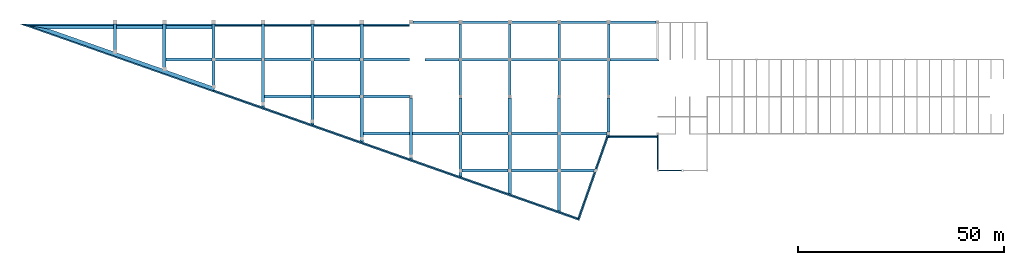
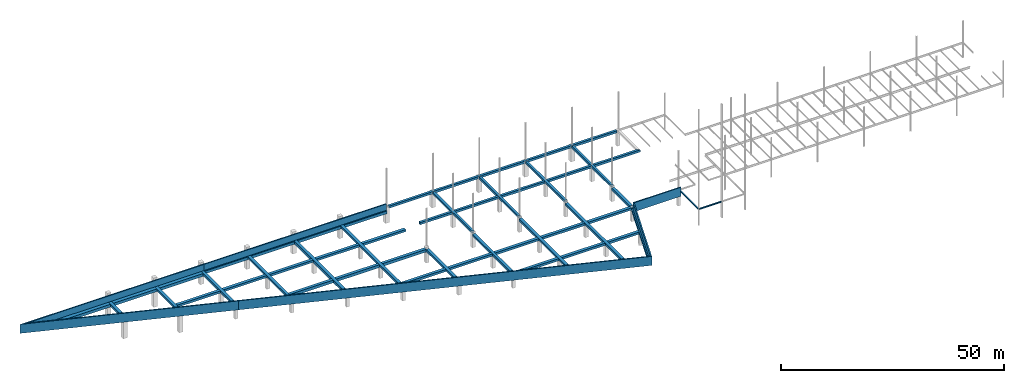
# One storey, part 10 of 19: 30 beams.
"""IFC2X3 building model written with IfcOpenShell, lengths in millimetres."""

from ifc_helpers import new_model, si_unit, origin, place, context, project, spatial, faceted_brep, material, element, save


model = new_model("IFC2X3")

# Units and contexts
context_of_model = context(None, 3, precision=1e-05, world=origin())
ifc_project = project(units=[si_unit("LENGTHUNIT", "METRE", prefix="MILLI")], contexts=[context_of_model])

# Building, storey
building = spatial("IfcBuilding", under=ifc_project, Name="Building", CompositionType="ELEMENT")
storey = spatial("IfcBuildingStorey", under=building, Name="FL2-FRM", CompositionType="ELEMENT")

# Beams
ifc_material_1 = material(Name="C4000")
beam_1_placement = place(None, origin())
element("IfcBeam", 1, at=beam_1_placement, inside=storey, material=ifc_material_1, Name="B99", context=context_of_model, shape_type="Brep", body=[
    faceted_brep([(304.8, 26695.2, 3687.2), (304.8, 26695.2, 4296.8), (-56650.0, 26695.2, 4296.8), (-56650.0, 26695.2, 3687.2), (-304.8, 27304.8, 4296.8), (-56650.0, 27304.8, 4296.8), (-304.8, 27304.8, 3687.2), (-56650.0, 27304.8, 3687.2)], [[[0, 1, 2, 3]], [[1, 4, 5, 2]], [[4, 6, 7, 5]], [[6, 0, 3, 7]], [[0, 6, 4, 1]], [[3, 2, 5, 7]]]),
])
ifc_material_2 = material(Name="C4000")
beam_2_placement = place(None, origin())
element("IfcBeam", 2, at=beam_2_placement, inside=storey, material=ifc_material_2, Name="B100", context=context_of_model, shape_type="Brep", body=[
    faceted_brep([(-500.0, 35771.4, 3687.2), (-500.0, 35771.4, 4296.8), (-59500.0, 35771.4, 4296.8), (-59500.0, 35771.4, 3687.2), (-500.0, 36381.0, 4296.8), (-59500.0, 36381.0, 4296.8), (-500.0, 36381.0, 3687.2), (-59500.0, 36381.0, 3687.2)], [[[0, 1, 2, 3]], [[1, 4, 5, 2]], [[4, 6, 7, 5]], [[6, 0, 3, 7]], [[0, 6, 4, 1]], [[3, 2, 5, 7]]]),
])
ifc_material_3 = material(Name="C4000")
beam_3_placement = place(None, origin())
element("IfcBeam", 3, at=beam_3_placement, inside=storey, material=ifc_material_3, Name="B128", context=context_of_model, shape_type="Brep", body=[
    faceted_brep([(-119619.0, 35617.7, 3190.4), (-119619.0, 35617.7, 3800.0), (-119619.1, 24443.7, 3800.0), (-119619.1, 24443.7, 3190.4), (-120381.0, 35617.7, 3800.0), (-120381.1, 24711.6, 3800.0), (-120381.0, 35617.7, 3190.4), (-120381.1, 24711.6, 3190.4)], [[[0, 1, 2, 3]], [[1, 4, 5, 2]], [[4, 6, 7, 5]], [[6, 0, 3, 7]], [[0, 6, 4, 1]], [[3, 2, 5, 7]]]),
])
ifc_material_4 = material(Name="C4000")
beam_4_placement = place(None, origin())
element("IfcBeam", 4, at=beam_4_placement, inside=storey, material=ifc_material_4, Name="B129", context=context_of_model, shape_type="Brep", body=[
    faceted_brep([(-131619.0, 35617.7, 3190.4), (-131619.0, 35617.7, 3800.0), (-131619.7, 28662.2, 3800.0), (-131619.7, 28662.2, 3190.4), (-132381.0, 35617.7, 3800.0), (-132381.6, 28930.0, 3800.0), (-132381.0, 35617.7, 3190.4), (-132381.6, 28930.0, 3190.4)], [[[0, 1, 2, 3]], [[1, 4, 5, 2]], [[4, 6, 7, 5]], [[6, 0, 3, 7]], [[0, 6, 4, 1]], [[3, 2, 5, 7]]]),
])
ifc_material_5 = material(Name="C4000")
beam_5_placement = place(None, origin())
element("IfcBeam", 5, at=beam_5_placement, inside=storey, material=ifc_material_5, Name="B134", context=context_of_model, shape_type="Brep", body=[
    faceted_brep([(-107619.0, 35314.2, 5400.2), (-107619.0, 35453.9, 5400.2), (-142925.7, 35453.9, 5400.2), (-142925.7, 35314.2, 5400.2), (-107619.0, 35453.9, 3139.6), (-142925.7, 35453.9, 3139.6), (-107619.0, 35453.9, 3139.6), (-142925.7, 35453.9, 3139.6), (-107619.0, 35453.9, 3114.2), (-142925.7, 35453.9, 3114.2), (-107619.0, 35479.3, 3114.2), (-142925.7, 35479.3, 3114.2), (-107619.0, 35479.3, 3139.6), (-142925.7, 35479.3, 3139.6), (-107619.0, 35479.3, 3139.6), (-142925.7, 35479.3, 3139.6), (-107619.0, 35479.3, 5400.2), (-142925.7, 35479.3, 5400.2), (-107619.0, 35619.0, 5400.2), (-142925.7, 35619.0, 5400.2), (-107619.0, 35619.0, 3038.0), (-142925.7, 35619.0, 3038.0), (-107619.0, 34399.8, 3038.0), (-142925.7, 34399.8, 3038.0), (-107619.0, 34399.8, 3800.0), (-142925.7, 34399.8, 3800.0), (-107619.0, 35314.2, 3800.0), (-142925.7, 35314.2, 3800.0), (-154119.2, 35453.9, 5400.2), (-153300.6, 35314.2, 5400.2), (-154119.2, 35453.9, 3139.6), (-154119.2, 35453.9, 3139.6), (-154119.2, 35453.9, 3114.2), (-154268.1, 35479.3, 3114.2), (-154268.1, 35479.3, 3139.6), (-154268.1, 35479.3, 3139.6), (-154268.1, 35479.3, 5400.2), (-155086.7, 35619.0, 5400.2), (-155086.7, 35619.0, 3038.0), (-147942.0, 34399.8, 3038.0), (-147942.0, 34399.8, 3800.0), (-153300.6, 35314.2, 3800.0), (-107619.0, 35453.9, 3114.2), (-107619.0, 35453.9, 3139.6), (-142925.7, 35453.9, 3139.6), (-142925.7, 35453.9, 3114.2), (-107619.0, 35453.9, 3139.6), (-142925.7, 35453.9, 3139.6), (-107619.0, 35453.9, 5400.2), (-142925.7, 35453.9, 5400.2), (-107619.0, 35314.2, 5400.2), (-142925.7, 35314.2, 5400.2), (-107619.0, 35314.2, 5501.8), (-142925.7, 35314.2, 5501.8), (-107619.0, 35619.0, 5501.8), (-142925.7, 35619.0, 5501.8), (-107619.0, 35619.0, 5400.2), (-142925.7, 35619.0, 5400.2), (-107619.0, 35479.3, 5400.2), (-142925.7, 35479.3, 5400.2), (-107619.0, 35479.3, 3139.6), (-142925.7, 35479.3, 3139.6), (-107619.0, 35479.3, 3139.6), (-142925.7, 35479.3, 3139.6), (-107619.0, 35479.3, 3114.2), (-142925.7, 35479.3, 3114.2), (-154119.2, 35453.9, 3139.6), (-154119.2, 35453.9, 3114.2), (-154119.2, 35453.9, 3139.6), (-154119.2, 35453.9, 5400.2), (-153300.6, 35314.2, 5400.2), (-153300.6, 35314.2, 5501.8), (-155086.7, 35619.0, 5501.8), (-155086.7, 35619.0, 5400.2), (-154268.1, 35479.3, 5400.2), (-154268.1, 35479.3, 3139.6), (-154268.1, 35479.3, 3139.6), (-154268.1, 35479.3, 3114.2)], [[[0, 1, 2, 3]], [[1, 4, 5, 2]], [[4, 6, 7, 5]], [[6, 8, 9, 7]], [[8, 10, 11, 9]], [[10, 12, 13, 11]], [[12, 14, 15, 13]], [[14, 16, 17, 15]], [[16, 18, 19, 17]], [[18, 20, 21, 19]], [[20, 22, 23, 21]], [[22, 24, 25, 23]], [[24, 26, 27, 25]], [[26, 0, 3, 27]], [[3, 2, 28, 29]], [[2, 5, 30, 28]], [[5, 7, 31, 30]], [[7, 9, 32, 31]], [[9, 11, 33, 32]], [[11, 13, 34, 33]], [[13, 15, 35, 34]], [[15, 17, 36, 35]], [[17, 19, 37, 36]], [[19, 21, 38, 37]], [[21, 23, 39, 38]], [[23, 25, 40, 39]], [[25, 27, 41, 40]], [[27, 3, 29, 41]], [[0, 26, 24, 22, 20, 18, 16, 14, 12, 10, 8, 6, 4, 1]], [[29, 28, 30, 31, 32, 33, 34, 35, 36, 37, 38, 39, 40, 41]], [[42, 43, 44, 45]], [[43, 46, 47, 44]], [[46, 48, 49, 47]], [[48, 50, 51, 49]], [[50, 52, 53, 51]], [[52, 54, 55, 53]], [[54, 56, 57, 55]], [[56, 58, 59, 57]], [[58, 60, 61, 59]], [[60, 62, 63, 61]], [[62, 64, 65, 63]], [[64, 42, 45, 65]], [[45, 44, 66, 67]], [[44, 47, 68, 66]], [[47, 49, 69, 68]], [[49, 51, 70, 69]], [[51, 53, 71, 70]], [[53, 55, 72, 71]], [[55, 57, 73, 72]], [[57, 59, 74, 73]], [[59, 61, 75, 74]], [[61, 63, 76, 75]], [[63, 65, 77, 76]], [[65, 45, 67, 77]], [[42, 64, 62, 60, 58, 56, 54, 52, 50, 48, 46, 43]], [[67, 66, 68, 69, 70, 71, 72, 73, 74, 75, 76, 77]]]),
])
ifc_material_6 = material(Name="C4000")
beam_6_placement = place(None, origin())
element("IfcBeam", 6, at=beam_6_placement, inside=storey, material=ifc_material_6, Name="B705", context=context_of_model, shape_type="Brep", body=[
    faceted_brep([(-153300.6, 35314.2, 5400.2), (-154119.2, 35453.9, 5400.2), (-108046.3, 19258.3, 5400.2), (-108000.0, 19390.1, 5400.2), (-154119.2, 35453.9, 3139.6), (-108046.3, 19258.3, 3139.6), (-154119.2, 35453.9, 3139.6), (-108046.3, 19258.3, 3139.6), (-154119.2, 35453.9, 3114.2), (-108046.3, 19258.3, 3114.2), (-154268.1, 35479.3, 3114.2), (-108054.7, 19234.4, 3114.2), (-154268.1, 35479.3, 3139.6), (-108054.7, 19234.4, 3139.6), (-154268.1, 35479.3, 3139.6), (-108054.7, 19234.4, 3139.6), (-154268.1, 35479.3, 5400.2), (-108054.7, 19234.4, 5400.2), (-155086.7, 35619.0, 5400.2), (-108101.1, 19102.6, 5400.2), (-155086.7, 35619.0, 3038.0), (-108101.1, 19102.6, 3038.0), (-147942.0, 34399.8, 3038.0), (-107696.8, 20252.8, 3038.0), (-147942.0, 34399.8, 3800.0), (-107696.8, 20252.8, 3800.0), (-153300.6, 35314.2, 3800.0), (-108000.0, 19390.1, 3800.0), (-154119.2, 35453.9, 3114.2), (-154119.2, 35453.9, 3139.6), (-108046.3, 19258.3, 3139.6), (-108046.3, 19258.3, 3114.2), (-154119.2, 35453.9, 3139.6), (-108046.3, 19258.3, 3139.6), (-154119.2, 35453.9, 5400.2), (-108046.3, 19258.3, 5400.2), (-153300.6, 35314.2, 5400.2), (-108000.0, 19390.1, 5400.2), (-153300.6, 35314.2, 5501.8), (-108000.0, 19390.1, 5501.8), (-155086.7, 35619.0, 5501.8), (-108101.1, 19102.6, 5501.8), (-155086.7, 35619.0, 5400.2), (-108101.1, 19102.6, 5400.2), (-154268.1, 35479.3, 5400.2), (-108054.7, 19234.4, 5400.2), (-154268.1, 35479.3, 3139.6), (-108054.7, 19234.4, 3139.6), (-154268.1, 35479.3, 3139.6), (-108054.7, 19234.4, 3139.6), (-154268.1, 35479.3, 3114.2), (-108054.7, 19234.4, 3114.2)], [[[0, 1, 2, 3]], [[1, 4, 5, 2]], [[4, 6, 7, 5]], [[6, 8, 9, 7]], [[8, 10, 11, 9]], [[10, 12, 13, 11]], [[12, 14, 15, 13]], [[14, 16, 17, 15]], [[16, 18, 19, 17]], [[18, 20, 21, 19]], [[20, 22, 23, 21]], [[22, 24, 25, 23]], [[24, 26, 27, 25]], [[26, 0, 3, 27]], [[0, 26, 24, 22, 20, 18, 16, 14, 12, 10, 8, 6, 4, 1]], [[3, 2, 5, 7, 9, 11, 13, 15, 17, 19, 21, 23, 25, 27]], [[28, 29, 30, 31]], [[29, 32, 33, 30]], [[32, 34, 35, 33]], [[34, 36, 37, 35]], [[36, 38, 39, 37]], [[38, 40, 41, 39]], [[40, 42, 43, 41]], [[42, 44, 45, 43]], [[44, 46, 47, 45]], [[46, 48, 49, 47]], [[48, 50, 51, 49]], [[50, 28, 31, 51]], [[28, 50, 48, 46, 44, 42, 40, 38, 36, 34, 32, 29]], [[31, 30, 33, 35, 37, 39, 41, 43, 45, 47, 49, 51]]]),
])
ifc_material_7 = material(Name="C4000")
beam_7_placement = place(None, origin())
element("IfcBeam", 7, at=beam_7_placement, inside=storey, material=ifc_material_7, Name="B706", context=context_of_model, shape_type="Brep", body=[
    faceted_brep([(-19493.6, -11398.6, 3038.0), (-19493.6, -11398.6, 3800.0), (-12479.6, 8554.81, 3800.0), (-12479.6, 8554.81, 3038.0), (-19307.1, -11787.2, 3800.0), (-12263.6, 8250.01, 3800.0), (-19307.1, -11787.2, 5501.8), (-12263.6, 8250.01, 5501.8), (-19120.7, -12175.8, 5501.8), (-12047.7, 7945.21, 5501.8), (-19120.7, -12175.8, 3038.0), (-12047.7, 7945.21, 3038.0)], [[[0, 1, 2, 3]], [[1, 4, 5, 2]], [[4, 6, 7, 5]], [[6, 8, 9, 7]], [[8, 10, 11, 9]], [[10, 0, 3, 11]], [[0, 10, 8, 6, 4, 1]], [[3, 2, 5, 7, 9, 11]]]),
])
ifc_material_8 = material(Name="C4000")
beam_8_placement = place(None, origin())
element("IfcBeam", 8, at=beam_8_placement, inside=storey, material=ifc_material_8, Name="B707", context=context_of_model, shape_type="Brep", body=[
    faceted_brep([(-12381.0, 9400.05, 3190.4), (-12381.0, 9400.05, 3800.0), (-12381.0, 17600.0, 3800.0), (-12381.0, 17600.0, 3190.4), (-11619.0, 9400.05, 3800.0), (-11619.0, 17600.0, 3800.0), (-11619.0, 9400.05, 3190.4), (-11619.0, 17600.0, 3190.4)], [[[0, 1, 2, 3]], [[1, 4, 5, 2]], [[4, 6, 7, 5]], [[6, 0, 3, 7]], [[0, 6, 4, 1]], [[3, 2, 5, 7]]]),
])
ifc_material_9 = material(Name="C4000")
beam_9_placement = place(None, origin())
element("IfcBeam", 9, at=beam_9_placement, inside=storey, material=ifc_material_9, Name="B713", context=context_of_model, shape_type="Brep", body=[
    faceted_brep([(-83619.0, 35617.7, 3038.0), (-83619.0, 35617.7, 3800.0), (-83619.0, 11142.8, 3800.0), (-83619.0, 11142.8, 3038.0), (-84381.0, 35617.7, 3800.0), (-84381.0, 11410.7, 3800.0), (-84381.0, 35617.7, 3038.0), (-84381.0, 11410.7, 3038.0)], [[[0, 1, 2, 3]], [[1, 4, 5, 2]], [[4, 6, 7, 5]], [[6, 0, 3, 7]], [[0, 6, 4, 1]], [[3, 2, 5, 7]]]),
])
ifc_material_10 = material(Name="C4000")
beam_10_placement = place(None, origin())
element("IfcBeam", 10, at=beam_10_placement, inside=storey, material=ifc_material_10, Name="B714", context=context_of_model, shape_type="Brep", body=[
    faceted_brep([(-119619.0, 27381.0, 3190.4), (-119619.0, 27381.0, 3800.0), (-60418.0, 27381.0, 3800.0), (-60418.0, 27381.0, 3190.4), (-119619.1, 26619.0, 3800.0), (-60418.0, 26619.0, 3800.0), (-119619.1, 26619.0, 3190.4), (-60418.0, 26619.0, 3190.4)], [[[0, 1, 2, 3]], [[1, 4, 5, 2]], [[4, 6, 7, 5]], [[6, 0, 3, 7]], [[0, 6, 4, 1]], [[3, 2, 5, 7]]]),
])
ifc_material_11 = material(Name="C4000")
beam_11_placement = place(None, origin())
element("IfcBeam", 11, at=beam_11_placement, inside=storey, material=ifc_material_11, Name="B715", context=context_of_model, shape_type="Brep", body=[
    faceted_brep([(-60400.1, 17619.0, 3038.0), (-60400.1, 17619.0, 3800.0), (-95619.0, 17619.0, 3800.0), (-95619.0, 17619.0, 3038.0), (-60400.1, 18381.0, 3800.0), (-95619.0, 18381.0, 3800.0), (-60400.1, 18381.0, 3038.0), (-95619.0, 18381.0, 3038.0)], [[[0, 1, 2, 3]], [[1, 4, 5, 2]], [[4, 6, 7, 5]], [[6, 0, 3, 7]], [[0, 6, 4, 1]], [[3, 2, 5, 7]]]),
])
ifc_material_12 = material(Name="C4000")
beam_12_placement = place(None, origin())
element("IfcBeam", 12, at=beam_12_placement, inside=storey, material=ifc_material_12, Name="B716", context=context_of_model, shape_type="Brep", body=[
    faceted_brep([(-12479.6, 8554.81, 3038.0), (-12479.6, 8554.81, 3800.0), (-8000.0, 8554.81, 3800.0), (-8000.0, 8554.81, 3038.0), (-12263.6, 8250.01, 3800.0), (-8000.0, 8250.01, 3800.0), (-12263.6, 8250.01, 5501.8), (-8000.0, 8250.01, 5501.8), (-12047.7, 7945.21, 5501.8), (-8000.0, 7945.21, 5501.8), (-12047.7, 7945.21, 3038.0), (-8000.0, 7945.21, 3038.0), (0.0, 8554.81, 3800.0), (0.0, 8554.81, 3038.0), (0.0, 8250.01, 3800.0), (0.0, 8250.01, 5501.8), (0.0, 7945.21, 5501.8), (0.0, 7945.21, 3038.0)], [[[0, 1, 2, 3]], [[1, 4, 5, 2]], [[4, 6, 7, 5]], [[6, 8, 9, 7]], [[8, 10, 11, 9]], [[10, 0, 3, 11]], [[3, 2, 12, 13]], [[2, 5, 14, 12]], [[5, 7, 15, 14]], [[7, 9, 16, 15]], [[9, 11, 17, 16]], [[11, 3, 13, 17]], [[0, 10, 8, 6, 4, 1]], [[13, 12, 14, 15, 16, 17]]]),
])
ifc_material_13 = material(Name="C4000")
beam_13_placement = place(None, origin())
element("IfcBeam", 13, at=beam_13_placement, inside=storey, material=ifc_material_13, Name="B717", context=context_of_model, shape_type="Brep", body=[
    faceted_brep([(-15620.7, -381.0, 3190.4), (-15620.7, -381.0, 3800.0), (-47600.0, -381.0, 3800.0), (-47600.0, -381.0, 3190.4), (-15352.8, 381.0, 3800.0), (-47599.9, 381.0, 3800.0), (-15352.8, 381.0, 3190.4), (-47599.9, 381.0, 3190.4)], [[[0, 1, 2, 3]], [[1, 4, 5, 2]], [[4, 6, 7, 5]], [[6, 0, 3, 7]], [[0, 6, 4, 1]], [[3, 2, 5, 7]]]),
])
ifc_material_14 = material(Name="C4000")
beam_14_placement = place(None, origin())
element("IfcBeam", 14, at=beam_14_placement, inside=storey, material=ifc_material_14, Name="B778", context=context_of_model, shape_type="Brep", body=[
    faceted_brep([(-12400.1, 8619.0, 3190.4), (-12400.1, 8619.0, 3800.0), (-71619.0, 8619.0, 3800.0), (-71619.0, 8619.0, 3190.4), (-12400.1, 9381.0, 3800.0), (-71619.0, 9381.0, 3800.0), (-12400.1, 9381.0, 3190.4), (-71619.0, 9381.0, 3190.4)], [[[0, 1, 2, 3]], [[1, 4, 5, 2]], [[4, 6, 7, 5]], [[6, 0, 3, 7]], [[0, 6, 4, 1]], [[3, 2, 5, 7]]]),
])
ifc_material_15 = material(Name="C4000")
beam_15_placement = place(None, origin())
element("IfcBeam", 15, at=beam_15_placement, inside=storey, material=ifc_material_15, Name="B779", context=context_of_model, shape_type="Brep", body=[
    faceted_brep([(-60418.0, 35009.4, 3038.0), (-60418.0, 35009.4, 3800.0), (-64000.0, 35009.4, 3800.0), (-64000.0, 35009.4, 3038.0), (-60418.0, 35314.2, 3800.0), (-64000.0, 35314.2, 3800.0), (-60418.0, 35314.2, 5501.8), (-64000.0, 35314.2, 5501.8), (-60418.0, 35619.0, 5501.8), (-64000.0, 35619.0, 5501.8), (-60418.0, 35619.0, 3038.0), (-64000.0, 35619.0, 3038.0), (-68000.0, 35009.4, 3800.0), (-68000.0, 35009.4, 3038.0), (-68000.0, 35314.2, 3800.0), (-68000.0, 35314.2, 5501.8), (-68000.0, 35619.0, 5501.8), (-68000.0, 35619.0, 3038.0), (-107619.0, 35009.4, 3800.0), (-107619.0, 35009.4, 3038.0), (-107619.0, 35314.2, 3800.0), (-107619.0, 35314.2, 5501.8), (-107619.0, 35619.0, 5501.8), (-107619.0, 35619.0, 3038.0)], [[[0, 1, 2, 3]], [[1, 4, 5, 2]], [[4, 6, 7, 5]], [[6, 8, 9, 7]], [[8, 10, 11, 9]], [[10, 0, 3, 11]], [[3, 2, 12, 13]], [[2, 5, 14, 12]], [[5, 7, 15, 14]], [[7, 9, 16, 15]], [[9, 11, 17, 16]], [[11, 3, 13, 17]], [[13, 12, 18, 19]], [[12, 14, 20, 18]], [[14, 15, 21, 20]], [[15, 16, 22, 21]], [[16, 17, 23, 22]], [[17, 13, 19, 23]], [[0, 10, 8, 6, 4, 1]], [[19, 18, 20, 21, 22, 23]]]),
])
ifc_material_16 = material(Name="C4000")
beam_16_placement = place(None, origin())
element("IfcBeam", 16, at=beam_16_placement, inside=storey, material=ifc_material_16, Name="B780", context=context_of_model, shape_type="Brep", body=[
    faceted_brep([(-107898.9, 19677.7, 3038.0), (-107898.9, 19677.7, 3800.0), (-19493.6, -11398.6, 3800.0), (-19493.6, -11398.6, 3038.0), (-108000.0, 19390.1, 3800.0), (-19307.1, -11787.2, 3800.0), (-108000.0, 19390.1, 5501.8), (-19307.1, -11787.2, 5501.8), (-108101.1, 19102.6, 5501.8), (-19120.7, -12175.8, 5501.8), (-108101.1, 19102.6, 3038.0), (-19120.7, -12175.8, 3038.0)], [[[0, 1, 2, 3]], [[1, 4, 5, 2]], [[4, 6, 7, 5]], [[6, 8, 9, 7]], [[8, 10, 11, 9]], [[10, 0, 3, 11]], [[0, 10, 8, 6, 4, 1]], [[3, 2, 5, 7, 9, 11]]]),
])
ifc_material_17 = material(Name="C4000")
beam_17_placement = place(None, origin())
element("IfcBeam", 17, at=beam_17_placement, inside=storey, material=ifc_material_17, Name="B1192", context=context_of_model, shape_type="Brep", body=[
    faceted_brep([(-108381.0, 20493.3, 3190.4), (-108381.0, 20493.3, 3800.0), (-108381.0, 35619.0, 3800.0), (-108381.0, 35619.0, 3190.4), (-107619.0, 20225.5, 3800.0), (-107619.0, 35619.0, 3800.0), (-107619.0, 20225.5, 3190.4), (-107619.0, 35619.0, 3190.4)], [[[0, 1, 2, 3]], [[1, 4, 5, 2]], [[4, 6, 7, 5]], [[6, 0, 3, 7]], [[0, 6, 4, 1]], [[3, 2, 5, 7]]]),
])
ifc_material_18 = material(Name="C4000")
beam_18_placement = place(None, origin())
element("IfcBeam", 18, at=beam_18_placement, inside=storey, material=ifc_material_18, Name="B1193", context=context_of_model, shape_type="Brep", body=[
    faceted_brep([(-96381.0, 15628.9, 3190.4), (-96381.0, 15628.9, 3800.0), (-96381.0, 35617.7, 3800.0), (-96381.0, 35617.7, 3190.4), (-95619.0, 15361.1, 3800.0), (-95619.0, 35617.7, 3800.0), (-95619.0, 15361.1, 3190.4), (-95619.0, 35617.7, 3190.4)], [[[0, 1, 2, 3]], [[1, 4, 5, 2]], [[4, 6, 7, 5]], [[6, 0, 3, 7]], [[0, 6, 4, 1]], [[3, 2, 5, 7]]]),
])
ifc_material_19 = material(Name="C4000")
beam_19_placement = place(None, origin())
element("IfcBeam", 19, at=beam_19_placement, inside=storey, material=ifc_material_19, Name="B1195", context=context_of_model, shape_type="Brep", body=[
    faceted_brep([(-72381.0, 7192.43, 3190.4), (-72381.0, 7192.43, 3800.0), (-72381.0, 35617.7, 3800.0), (-72381.0, 35617.7, 3190.4), (-71619.0, 6924.57, 3800.0), (-71619.0, 35617.7, 3800.0), (-71619.0, 6924.57, 3190.4), (-71619.0, 35617.7, 3190.4)], [[[0, 1, 2, 3]], [[1, 4, 5, 2]], [[4, 6, 7, 5]], [[6, 0, 3, 7]], [[0, 6, 4, 1]], [[3, 2, 5, 7]]]),
])
ifc_material_20 = material(Name="C4000")
beam_20_placement = place(None, origin())
element("IfcBeam", 20, at=beam_20_placement, inside=storey, material=ifc_material_20, Name="B1196", context=context_of_model, shape_type="Brep", body=[
    faceted_brep([(-60381.0, 2974.18, 3190.4), (-60381.0, 2974.18, 3800.0), (-60381.0, 17600.0, 3800.0), (-60381.0, 17600.0, 3190.4), (-59619.0, 2706.33, 3800.0), (-59619.0, 17600.0, 3800.0), (-59619.0, 2706.33, 3190.4), (-59619.0, 17600.0, 3190.4)], [[[0, 1, 2, 3]], [[1, 4, 5, 2]], [[4, 6, 7, 5]], [[6, 0, 3, 7]], [[0, 6, 4, 1]], [[3, 2, 5, 7]]]),
])
ifc_material_21 = material(Name="C4000")
beam_21_placement = place(None, origin())
element("IfcBeam", 21, at=beam_21_placement, inside=storey, material=ifc_material_21, Name="B1197", context=context_of_model, shape_type="Brep", body=[
    faceted_brep([(-48381.0, -1244.06, 3190.4), (-48381.0, -1244.06, 3800.0), (-48381.0, 17600.0, 3800.0), (-48381.0, 17600.0, 3190.4), (-47619.0, -1511.92, 3800.0), (-47619.0, 17600.0, 3800.0), (-47619.0, -1511.92, 3190.4), (-47619.0, 17600.0, 3190.4)], [[[0, 1, 2, 3]], [[1, 4, 5, 2]], [[4, 6, 7, 5]], [[6, 0, 3, 7]], [[0, 6, 4, 1]], [[3, 2, 5, 7]]]),
])
ifc_material_22 = material(Name="C4000")
beam_22_placement = place(None, origin())
element("IfcBeam", 22, at=beam_22_placement, inside=storey, material=ifc_material_22, Name="B1198", context=context_of_model, shape_type="Brep", body=[
    faceted_brep([(-36381.0, -5462.3, 3190.4), (-36381.0, -5462.3, 3800.0), (-36381.0, 17600.0, 3800.0), (-36381.0, 17600.0, 3190.4), (-35619.0, -5730.16, 3800.0), (-35619.0, 17600.0, 3800.0), (-35619.0, -5730.16, 3190.4), (-35619.0, 17600.0, 3190.4)], [[[0, 1, 2, 3]], [[1, 4, 5, 2]], [[4, 6, 7, 5]], [[6, 0, 3, 7]], [[0, 6, 4, 1]], [[3, 2, 5, 7]]]),
])
ifc_material_23 = material(Name="C4000")
beam_23_placement = place(None, origin())
element("IfcBeam", 23, at=beam_23_placement, inside=storey, material=ifc_material_23, Name="B1199", context=context_of_model, shape_type="Brep", body=[
    faceted_brep([(-24381.0, -9680.54, 3190.4), (-24381.0, -9680.54, 3800.0), (-24381.0, 17600.0, 3800.0), (-24381.0, 17600.0, 3190.4), (-23619.0, -9948.4, 3800.0), (-23619.0, 17600.0, 3800.0), (-23619.0, -9948.4, 3190.4), (-23619.0, 17600.0, 3190.4)], [[[0, 1, 2, 3]], [[1, 4, 5, 2]], [[4, 6, 7, 5]], [[6, 0, 3, 7]], [[0, 6, 4, 1]], [[3, 2, 5, 7]]]),
])
ifc_material_24 = material(Name="C4000")
beam_24_placement = place(None, origin())
element("IfcBeam", 24, at=beam_24_placement, inside=storey, material=ifc_material_24, Name="B1217", context=context_of_model, shape_type="Brep", body=[
    faceted_brep([(-47695.2, 35617.7, 3687.2), (-47695.2, 35617.7, 4296.8), (-47695.2, 18004.9, 4296.8), (-47695.2, 18004.9, 3687.2), (-48304.8, 35617.7, 4296.8), (-48304.8, 18004.9, 4296.8), (-48304.8, 35617.7, 3687.2), (-48304.8, 18004.9, 3687.2)], [[[0, 1, 2, 3]], [[1, 4, 5, 2]], [[4, 6, 7, 5]], [[6, 0, 3, 7]], [[0, 6, 4, 1]], [[3, 2, 5, 7]]]),
])
ifc_material_25 = material(Name="C4000")
beam_25_placement = place(None, origin())
element("IfcBeam", 25, at=beam_25_placement, inside=storey, material=ifc_material_25, Name="B1218", context=context_of_model, shape_type="Brep", body=[
    faceted_brep([(-35695.2, 35617.7, 3687.2), (-35695.2, 35617.7, 4296.8), (-35695.2, 18004.9, 4296.8), (-35695.2, 18004.9, 3687.2), (-36304.8, 35617.7, 4296.8), (-36304.8, 18004.9, 4296.8), (-36304.8, 35617.7, 3687.2), (-36304.8, 18004.9, 3687.2)], [[[0, 1, 2, 3]], [[1, 4, 5, 2]], [[4, 6, 7, 5]], [[6, 0, 3, 7]], [[0, 6, 4, 1]], [[3, 2, 5, 7]]]),
])
ifc_material_26 = material(Name="C4000")
beam_26_placement = place(None, origin())
element("IfcBeam", 26, at=beam_26_placement, inside=storey, material=ifc_material_26, Name="B1219", context=context_of_model, shape_type="Brep", body=[
    faceted_brep([(-24304.8, 18004.9, 3687.2), (-24304.8, 18004.9, 4296.8), (-24304.8, 35617.7, 4296.8), (-24304.8, 35617.7, 3687.2), (-23695.2, 18004.9, 4296.8), (-23695.2, 35617.7, 4296.8), (-23695.2, 18004.9, 3687.2), (-23695.2, 35617.7, 3687.2)], [[[0, 1, 2, 3]], [[1, 4, 5, 2]], [[4, 6, 7, 5]], [[6, 0, 3, 7]], [[0, 6, 4, 1]], [[3, 2, 5, 7]]]),
])
ifc_material_27 = material(Name="C4000")
beam_27_placement = place(None, origin())
element("IfcBeam", 27, at=beam_27_placement, inside=storey, material=ifc_material_27, Name="B1220", context=context_of_model, shape_type="Brep", body=[
    faceted_brep([(-12304.8, 18004.9, 3687.2), (-12304.8, 18004.9, 4296.8), (-12304.8, 35617.7, 4296.8), (-12304.8, 35617.7, 3687.2), (-11695.2, 18004.9, 4296.8), (-11695.2, 35617.7, 4296.8), (-11695.2, 18004.9, 3687.2), (-11695.2, 35617.7, 3687.2)], [[[0, 1, 2, 3]], [[1, 4, 5, 2]], [[4, 6, 7, 5]], [[6, 0, 3, 7]], [[0, 6, 4, 1]], [[3, 2, 5, 7]]]),
])
ifc_material_28 = material(Name="C4000")
beam_28_placement = place(None, origin())
element("IfcBeam", 28, at=beam_28_placement, inside=storey, material=ifc_material_28, Name="B1221", context=context_of_model, shape_type="Brep", body=[
    faceted_brep([(-11817.5, 8599.95, 3038.0), (-11817.5, 8599.95, 3800.0), (-11976.1, 8148.92, 3800.0), (-11976.1, 8148.92, 3038.0), (-12463.7, 8599.95, 3800.0), (-12551.2, 8351.08, 3800.0), (-12463.7, 8599.95, 3038.0), (-12551.2, 8351.08, 3038.0)], [[[0, 1, 2, 3]], [[1, 4, 5, 2]], [[4, 6, 7, 5]], [[6, 0, 3, 7]], [[0, 6, 4, 1]], [[3, 2, 5, 7]]]),
])
ifc_material_29 = material(Name="A500 grade B")
beam_29_placement = place(None, origin())
element("IfcBeam", 29, at=beam_29_placement, inside=storey, material=ifc_material_29, Name="B1231", context=context_of_model, shape_type="Brep", body=[
    faceted_brep([(-1.94289e-12, 8995.05, 4195.0), (133.5, 8995.05, 4195.0), (133.5, 152.5, 4195.0), (-1.94289e-12, 152.5, 4195.0), (138.418, 8995.05, 4195.65), (138.418, 152.5, 4195.65), (143.0, 8995.05, 4197.55), (143.0, 152.5, 4197.55), (146.935, 8995.05, 4200.56), (146.935, 152.5, 4200.56), (149.954, 8995.05, 4204.5), (149.954, 152.5, 4204.5), (151.853, 8995.05, 4209.08), (151.853, 152.5, 4209.08), (152.5, 8995.05, 4214.0), (152.5, 152.5, 4214.0), (152.5, 8995.05, 4481.0), (152.5, 152.5, 4481.0), (151.853, 8995.05, 4485.92), (151.853, 152.5, 4485.92), (149.954, 8995.05, 4490.5), (149.954, 152.5, 4490.5), (146.935, 8995.05, 4494.44), (146.935, 152.5, 4494.44), (143.0, 8995.05, 4497.45), (143.0, 152.5, 4497.45), (138.418, 8995.05, 4499.35), (138.418, 152.5, 4499.35), (133.5, 8995.05, 4500.0), (133.5, 152.5, 4500.0), (-133.5, 8995.05, 4500.0), (-133.5, 152.5, 4500.0), (-138.418, 8995.05, 4499.35), (-138.418, 152.5, 4499.35), (-143.0, 8995.05, 4497.45), (-143.0, 152.5, 4497.45), (-146.935, 8995.05, 4494.44), (-146.935, 152.5, 4494.44), (-149.954, 8995.05, 4490.5), (-149.954, 152.5, 4490.5), (-151.853, 8995.05, 4485.92), (-151.853, 152.5, 4485.92), (-152.5, 8995.05, 4481.0), (-152.5, 152.5, 4481.0), (-152.5, 8995.05, 4214.0), (-152.5, 152.5, 4214.0), (-151.853, 8995.05, 4209.08), (-151.853, 152.5, 4209.08), (-149.954, 8995.05, 4204.5), (-149.954, 152.5, 4204.5), (-146.935, 8995.05, 4200.56), (-146.935, 152.5, 4200.56), (-143.0, 8995.05, 4197.55), (-143.0, 152.5, 4197.55), (-138.418, 8995.05, 4195.65), (-138.418, 152.5, 4195.65), (-133.5, 8995.05, 4195.0), (-133.5, 152.5, 4195.0), (-1.94289e-12, 8995.05, 4204.5), (-133.5, 8995.05, 4204.5), (-133.5, 152.5, 4204.5), (-1.94289e-12, 152.5, 4204.5), (-135.959, 8995.05, 4204.82), (-135.959, 152.5, 4204.82), (-138.25, 8995.05, 4205.77), (-138.25, 152.5, 4205.77), (-140.218, 8995.05, 4207.28), (-140.218, 152.5, 4207.28), (-141.727, 8995.05, 4209.25), (-141.727, 152.5, 4209.25), (-142.676, 8995.05, 4211.54), (-142.676, 152.5, 4211.54), (-143.0, 8995.05, 4214.0), (-143.0, 152.5, 4214.0), (-143.0, 8995.05, 4481.0), (-143.0, 152.5, 4481.0), (-142.676, 8995.05, 4483.46), (-142.676, 152.5, 4483.46), (-141.727, 8995.05, 4485.75), (-141.727, 152.5, 4485.75), (-140.218, 8995.05, 4487.72), (-140.218, 152.5, 4487.72), (-138.25, 8995.05, 4489.23), (-138.25, 152.5, 4489.23), (-135.959, 8995.05, 4490.18), (-135.959, 152.5, 4490.18), (-133.5, 8995.05, 4490.5), (-133.5, 152.5, 4490.5), (133.5, 8995.05, 4490.5), (133.5, 152.5, 4490.5), (135.959, 8995.05, 4490.18), (135.959, 152.5, 4490.18), (138.25, 8995.05, 4489.23), (138.25, 152.5, 4489.23), (140.218, 8995.05, 4487.72), (140.218, 152.5, 4487.72), (141.727, 8995.05, 4485.75), (141.727, 152.5, 4485.75), (142.676, 8995.05, 4483.46), (142.676, 152.5, 4483.46), (143.0, 8995.05, 4481.0), (143.0, 152.5, 4481.0), (143.0, 8995.05, 4214.0), (143.0, 152.5, 4214.0), (142.676, 8995.05, 4211.54), (142.676, 152.5, 4211.54), (141.727, 8995.05, 4209.25), (141.727, 152.5, 4209.25), (140.218, 8995.05, 4207.28), (140.218, 152.5, 4207.28), (138.25, 8995.05, 4205.77), (138.25, 152.5, 4205.77), (135.959, 8995.05, 4204.82), (135.959, 152.5, 4204.82), (133.5, 8995.05, 4204.5), (133.5, 152.5, 4204.5)], [[[0, 1, 2, 3]], [[1, 4, 5, 2]], [[4, 6, 7, 5]], [[6, 8, 9, 7]], [[8, 10, 11, 9]], [[10, 12, 13, 11]], [[12, 14, 15, 13]], [[14, 16, 17, 15]], [[16, 18, 19, 17]], [[18, 20, 21, 19]], [[20, 22, 23, 21]], [[22, 24, 25, 23]], [[24, 26, 27, 25]], [[26, 28, 29, 27]], [[28, 30, 31, 29]], [[30, 32, 33, 31]], [[32, 34, 35, 33]], [[34, 36, 37, 35]], [[36, 38, 39, 37]], [[38, 40, 41, 39]], [[40, 42, 43, 41]], [[42, 44, 45, 43]], [[44, 46, 47, 45]], [[46, 48, 49, 47]], [[48, 50, 51, 49]], [[50, 52, 53, 51]], [[52, 54, 55, 53]], [[54, 56, 57, 55]], [[56, 0, 3, 57]], [[58, 59, 60, 61]], [[59, 62, 63, 60]], [[62, 64, 65, 63]], [[64, 66, 67, 65]], [[66, 68, 69, 67]], [[68, 70, 71, 69]], [[70, 72, 73, 71]], [[72, 74, 75, 73]], [[74, 76, 77, 75]], [[76, 78, 79, 77]], [[78, 80, 81, 79]], [[80, 82, 83, 81]], [[82, 84, 85, 83]], [[84, 86, 87, 85]], [[86, 88, 89, 87]], [[88, 90, 91, 89]], [[90, 92, 93, 91]], [[92, 94, 95, 93]], [[94, 96, 97, 95]], [[96, 98, 99, 97]], [[98, 100, 101, 99]], [[100, 102, 103, 101]], [[102, 104, 105, 103]], [[104, 106, 107, 105]], [[106, 108, 109, 107]], [[108, 110, 111, 109]], [[110, 112, 113, 111]], [[112, 114, 115, 113]], [[114, 58, 61, 115]], [[0, 56, 54, 52, 50, 48, 46, 44, 42, 40, 38, 36, 34, 32, 30, 28, 26, 24, 22, 20, 18, 16, 14, 12, 10, 8, 6, 4, 1], [58, 114, 112, 110, 108, 106, 104, 102, 100, 98, 96, 94, 92, 90, 88, 86, 84, 82, 80, 78, 76, 74, 72, 70, 68, 66, 64, 62, 59]], [[3, 2, 5, 7, 9, 11, 13, 15, 17, 19, 21, 23, 25, 27, 29, 31, 33, 35, 37, 39, 41, 43, 45, 47, 49, 51, 53, 55, 57], [61, 60, 63, 65, 67, 69, 71, 73, 75, 77, 79, 81, 83, 85, 87, 89, 91, 93, 95, 97, 99, 101, 103, 105, 107, 109, 111, 113, 115]]]),
])
ifc_material_30 = material(Name="A500 grade B")
beam_30_placement = place(None, origin())
element("IfcBeam", 30, at=beam_30_placement, inside=storey, material=ifc_material_30, Name="B1232", context=context_of_model, shape_type="Brep", body=[
    faceted_brep([(152.5, -1.94289e-12, 4195.0), (152.5, 133.5, 4195.0), (5847.5, 133.5, 4195.0), (5847.5, -1.94289e-12, 4195.0), (152.5, 138.418, 4195.65), (5847.5, 138.418, 4195.65), (152.5, 143.0, 4197.55), (5847.5, 143.0, 4197.55), (152.5, 146.935, 4200.56), (5847.5, 146.935, 4200.56), (152.5, 149.954, 4204.5), (5847.5, 149.954, 4204.5), (152.5, 151.853, 4209.08), (5847.5, 151.853, 4209.08), (152.5, 152.5, 4214.0), (5847.5, 152.5, 4214.0), (152.5, 152.5, 4481.0), (5847.5, 152.5, 4481.0), (152.5, 151.853, 4485.92), (5847.5, 151.853, 4485.92), (152.5, 149.954, 4490.5), (5847.5, 149.954, 4490.5), (152.5, 146.935, 4494.44), (5847.5, 146.935, 4494.44), (152.5, 143.0, 4497.45), (5847.5, 143.0, 4497.45), (152.5, 138.418, 4499.35), (5847.5, 138.418, 4499.35), (152.5, 133.5, 4500.0), (5847.5, 133.5, 4500.0), (152.5, -133.5, 4500.0), (5847.5, -133.5, 4500.0), (152.5, -138.418, 4499.35), (5847.5, -138.418, 4499.35), (152.5, -143.0, 4497.45), (5847.5, -143.0, 4497.45), (152.5, -146.935, 4494.44), (5847.5, -146.935, 4494.44), (152.5, -149.954, 4490.5), (5847.5, -149.954, 4490.5), (152.5, -151.853, 4485.92), (5847.5, -151.853, 4485.92), (152.5, -152.5, 4481.0), (5847.5, -152.5, 4481.0), (152.5, -152.5, 4214.0), (5847.5, -152.5, 4214.0), (152.5, -151.853, 4209.08), (5847.5, -151.853, 4209.08), (152.5, -149.954, 4204.5), (5847.5, -149.954, 4204.5), (152.5, -146.935, 4200.56), (5847.5, -146.935, 4200.56), (152.5, -143.0, 4197.55), (5847.5, -143.0, 4197.55), (152.5, -138.418, 4195.65), (5847.5, -138.418, 4195.65), (152.5, -133.5, 4195.0), (5847.5, -133.5, 4195.0), (152.5, -1.94289e-12, 4204.5), (152.5, -133.5, 4204.5), (5847.5, -133.5, 4204.5), (5847.5, -1.94289e-12, 4204.5), (152.5, -135.959, 4204.82), (5847.5, -135.959, 4204.82), (152.5, -138.25, 4205.77), (5847.5, -138.25, 4205.77), (152.5, -140.218, 4207.28), (5847.5, -140.218, 4207.28), (152.5, -141.727, 4209.25), (5847.5, -141.727, 4209.25), (152.5, -142.676, 4211.54), (5847.5, -142.676, 4211.54), (152.5, -143.0, 4214.0), (5847.5, -143.0, 4214.0), (152.5, -143.0, 4481.0), (5847.5, -143.0, 4481.0), (152.5, -142.676, 4483.46), (5847.5, -142.676, 4483.46), (152.5, -141.727, 4485.75), (5847.5, -141.727, 4485.75), (152.5, -140.218, 4487.72), (5847.5, -140.218, 4487.72), (152.5, -138.25, 4489.23), (5847.5, -138.25, 4489.23), (152.5, -135.959, 4490.18), (5847.5, -135.959, 4490.18), (152.5, -133.5, 4490.5), (5847.5, -133.5, 4490.5), (152.5, 133.5, 4490.5), (5847.5, 133.5, 4490.5), (152.5, 135.959, 4490.18), (5847.5, 135.959, 4490.18), (152.5, 138.25, 4489.23), (5847.5, 138.25, 4489.23), (152.5, 140.218, 4487.72), (5847.5, 140.218, 4487.72), (152.5, 141.727, 4485.75), (5847.5, 141.727, 4485.75), (152.5, 142.676, 4483.46), (5847.5, 142.676, 4483.46), (152.5, 143.0, 4481.0), (5847.5, 143.0, 4481.0), (152.5, 143.0, 4214.0), (5847.5, 143.0, 4214.0), (152.5, 142.676, 4211.54), (5847.5, 142.676, 4211.54), (152.5, 141.727, 4209.25), (5847.5, 141.727, 4209.25), (152.5, 140.218, 4207.28), (5847.5, 140.218, 4207.28), (152.5, 138.25, 4205.77), (5847.5, 138.25, 4205.77), (152.5, 135.959, 4204.82), (5847.5, 135.959, 4204.82), (152.5, 133.5, 4204.5), (5847.5, 133.5, 4204.5)], [[[0, 1, 2, 3]], [[1, 4, 5, 2]], [[4, 6, 7, 5]], [[6, 8, 9, 7]], [[8, 10, 11, 9]], [[10, 12, 13, 11]], [[12, 14, 15, 13]], [[14, 16, 17, 15]], [[16, 18, 19, 17]], [[18, 20, 21, 19]], [[20, 22, 23, 21]], [[22, 24, 25, 23]], [[24, 26, 27, 25]], [[26, 28, 29, 27]], [[28, 30, 31, 29]], [[30, 32, 33, 31]], [[32, 34, 35, 33]], [[34, 36, 37, 35]], [[36, 38, 39, 37]], [[38, 40, 41, 39]], [[40, 42, 43, 41]], [[42, 44, 45, 43]], [[44, 46, 47, 45]], [[46, 48, 49, 47]], [[48, 50, 51, 49]], [[50, 52, 53, 51]], [[52, 54, 55, 53]], [[54, 56, 57, 55]], [[56, 0, 3, 57]], [[58, 59, 60, 61]], [[59, 62, 63, 60]], [[62, 64, 65, 63]], [[64, 66, 67, 65]], [[66, 68, 69, 67]], [[68, 70, 71, 69]], [[70, 72, 73, 71]], [[72, 74, 75, 73]], [[74, 76, 77, 75]], [[76, 78, 79, 77]], [[78, 80, 81, 79]], [[80, 82, 83, 81]], [[82, 84, 85, 83]], [[84, 86, 87, 85]], [[86, 88, 89, 87]], [[88, 90, 91, 89]], [[90, 92, 93, 91]], [[92, 94, 95, 93]], [[94, 96, 97, 95]], [[96, 98, 99, 97]], [[98, 100, 101, 99]], [[100, 102, 103, 101]], [[102, 104, 105, 103]], [[104, 106, 107, 105]], [[106, 108, 109, 107]], [[108, 110, 111, 109]], [[110, 112, 113, 111]], [[112, 114, 115, 113]], [[114, 58, 61, 115]], [[0, 56, 54, 52, 50, 48, 46, 44, 42, 40, 38, 36, 34, 32, 30, 28, 26, 24, 22, 20, 18, 16, 14, 12, 10, 8, 6, 4, 1], [58, 114, 112, 110, 108, 106, 104, 102, 100, 98, 96, 94, 92, 90, 88, 86, 84, 82, 80, 78, 76, 74, 72, 70, 68, 66, 64, 62, 59]], [[3, 2, 5, 7, 9, 11, 13, 15, 17, 19, 21, 23, 25, 27, 29, 31, 33, 35, 37, 39, 41, 43, 45, 47, 49, 51, 53, 55, 57], [61, 60, 63, 65, 67, 69, 71, 73, 75, 77, 79, 81, 83, 85, 87, 89, 91, 93, 95, 97, 99, 101, 103, 105, 107, 109, 111, 113, 115]]]),
])

save(model, "model.ifc")
